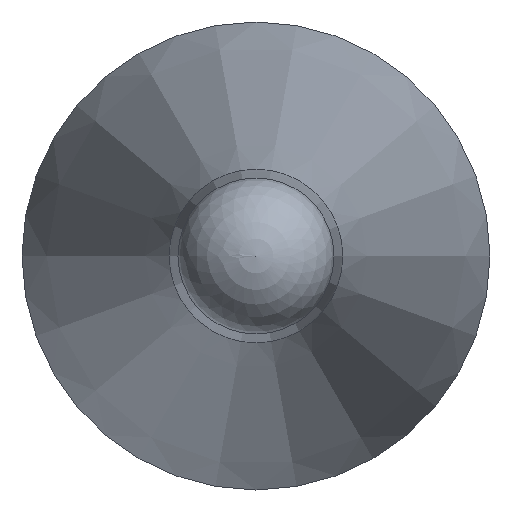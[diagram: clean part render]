
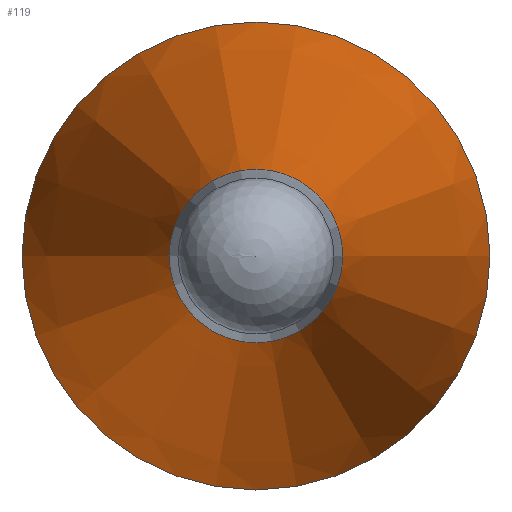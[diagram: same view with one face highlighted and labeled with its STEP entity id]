
A CAD part, left-side view. The second image highlights one B-rep face of the part: STEP entity #119.
In plain terms, the highlighted conical face has half-angle 12 degrees and reference radius 3 mm.
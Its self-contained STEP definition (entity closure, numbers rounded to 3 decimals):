
#97=CONICAL_SURFACE('',#194,3.,12.);
#106=FACE_BOUND('',#134,.T.);
#107=FACE_BOUND('',#135,.T.);
#119=ADVANCED_FACE('',(#106,#107),#97,.T.);
#134=EDGE_LOOP('',(#150));
#135=EDGE_LOOP('',(#151));
#150=ORIENTED_EDGE('',*,*,#172,.T.);
#151=ORIENTED_EDGE('',*,*,#173,.F.);
#164=VERTEX_POINT('',#249);
#165=VERTEX_POINT('',#252);
#172=EDGE_CURVE('',#164,#164,#180,.T.);
#173=EDGE_CURVE('',#165,#165,#181,.T.);
#180=CIRCLE('',#191,1.112);
#181=CIRCLE('',#193,3.);
#191=AXIS2_PLACEMENT_3D('',#248,#215,#216);
#193=AXIS2_PLACEMENT_3D('',#251,#219,#220);
#194=AXIS2_PLACEMENT_3D('',#253,#221,#222);
#215=DIRECTION('',(1.,0.,0.));
#216=DIRECTION('',(0.,1.,0.));
#219=DIRECTION('',(1.,0.,0.));
#220=DIRECTION('',(0.,1.,0.));
#221=DIRECTION('',(1.,0.,0.));
#222=DIRECTION('',(0.,1.,0.));
#248=CARTESIAN_POINT('',(7905.912,6103.288,0.));
#249=CARTESIAN_POINT('',(7905.912,6104.4,0.));
#251=CARTESIAN_POINT('',(7914.795,6103.288,0.));
#252=CARTESIAN_POINT('',(7914.795,6106.288,0.));
#253=CARTESIAN_POINT('',(7914.795,6103.288,0.));
